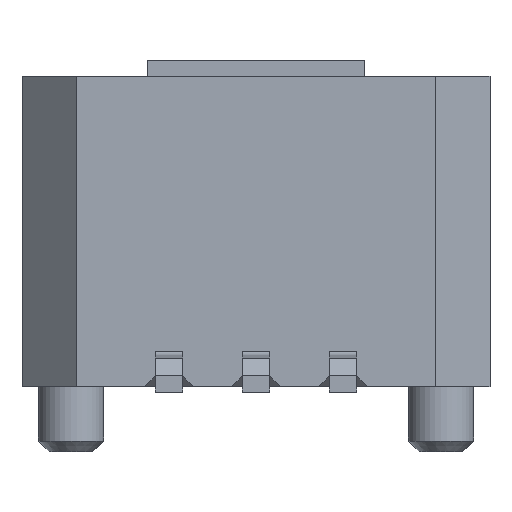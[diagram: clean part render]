
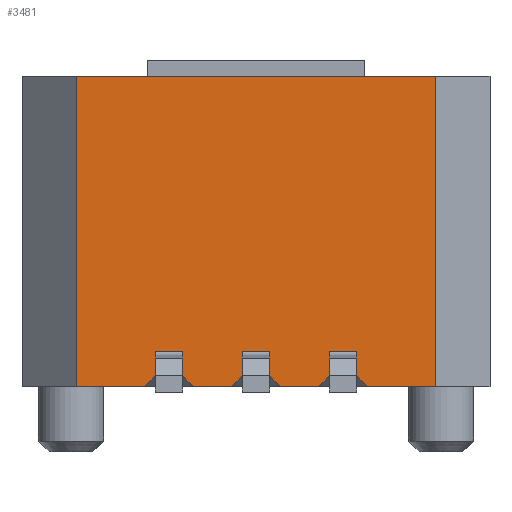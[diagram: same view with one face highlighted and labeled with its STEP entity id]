
A CAD part, front view. The second image highlights one B-rep face of the part: STEP entity #3481.
In plain terms, the highlighted planar face has unit normal (0, -1, 0).
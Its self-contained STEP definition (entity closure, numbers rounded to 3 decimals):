
#326=CARTESIAN_POINT('Vertex',(-1.65,-2.,0.)) ;
#329=CARTESIAN_POINT('Line Origine',(-1.65,-2.,1.425)) ;
#333=CARTESIAN_POINT('Vertex',(-1.65,-2.,2.85)) ;
#397=CARTESIAN_POINT('Vertex',(1.65,-2.,2.85)) ;
#400=CARTESIAN_POINT('Line Origine',(1.65,-2.,1.425)) ;
#404=CARTESIAN_POINT('Vertex',(1.65,-2.,0.)) ;
#429=CARTESIAN_POINT('Line Origine',(0.,-2.,2.85)) ;
#1069=CARTESIAN_POINT('Vertex',(0.925,-2.,0.32)) ;
#1072=CARTESIAN_POINT('Line Origine',(0.8,-2.,0.32)) ;
#1076=CARTESIAN_POINT('Vertex',(0.675,-2.,0.32)) ;
#1312=CARTESIAN_POINT('Line Origine',(0.675,-2.,0.21)) ;
#1316=CARTESIAN_POINT('Vertex',(0.675,-2.,0.1)) ;
#1351=CARTESIAN_POINT('Vertex',(0.925,-2.,0.1)) ;
#1354=CARTESIAN_POINT('Line Origine',(0.925,-2.,0.21)) ;
#1410=CARTESIAN_POINT('Vertex',(1.025,-2.,0.)) ;
#1413=CARTESIAN_POINT('Line Origine',(0.975,-2.,0.05)) ;
#1430=CARTESIAN_POINT('Line Origine',(0.625,-2.,0.05)) ;
#1434=CARTESIAN_POINT('Vertex',(0.575,-2.,0.)) ;
#2014=CARTESIAN_POINT('Vertex',(0.125,-2.,0.32)) ;
#2017=CARTESIAN_POINT('Line Origine',(0.,-2.,0.32)) ;
#2021=CARTESIAN_POINT('Vertex',(-0.125,-2.,0.32)) ;
#2232=CARTESIAN_POINT('Line Origine',(-0.125,-2.,0.21)) ;
#2236=CARTESIAN_POINT('Vertex',(-0.125,-2.,0.1)) ;
#2271=CARTESIAN_POINT('Vertex',(0.125,-2.,0.1)) ;
#2274=CARTESIAN_POINT('Line Origine',(0.125,-2.,0.21)) ;
#2330=CARTESIAN_POINT('Vertex',(0.225,-2.,0.)) ;
#2333=CARTESIAN_POINT('Line Origine',(0.175,-2.,0.05)) ;
#2350=CARTESIAN_POINT('Line Origine',(-0.175,-2.,0.05)) ;
#2354=CARTESIAN_POINT('Vertex',(-0.225,-2.,0.)) ;
#3179=CARTESIAN_POINT('Vertex',(-0.675,-2.,0.32)) ;
#3182=CARTESIAN_POINT('Line Origine',(-0.8,-2.,0.32)) ;
#3186=CARTESIAN_POINT('Vertex',(-0.925,-2.,0.32)) ;
#3353=CARTESIAN_POINT('Line Origine',(-0.925,-2.,0.21)) ;
#3357=CARTESIAN_POINT('Vertex',(-0.925,-2.,0.1)) ;
#3392=CARTESIAN_POINT('Vertex',(-0.675,-2.,0.1)) ;
#3395=CARTESIAN_POINT('Line Origine',(-0.675,-2.,0.21)) ;
#3418=CARTESIAN_POINT('Axis2P3D Location',(0.,-2.,2.85)) ;
#3423=CARTESIAN_POINT('Line Origine',(-0.975,-2.,0.05)) ;
#3427=CARTESIAN_POINT('Vertex',(-1.025,-2.,0.)) ;
#3430=CARTESIAN_POINT('Line Origine',(-0.625,-2.,0.05)) ;
#3434=CARTESIAN_POINT('Vertex',(-0.575,-2.,0.)) ;
#3437=CARTESIAN_POINT('Line Origine',(-0.4,-2.,0.)) ;
#3442=CARTESIAN_POINT('Line Origine',(0.4,-2.,0.)) ;
#3447=CARTESIAN_POINT('Line Origine',(1.338,-2.,0.)) ;
#3452=CARTESIAN_POINT('Line Origine',(-1.338,-2.,0.)) ;
#330=DIRECTION('Vector Direction',(0.,0.,-1.)) ;
#401=DIRECTION('Vector Direction',(0.,0.,-1.)) ;
#430=DIRECTION('Vector Direction',(1.,0.,0.)) ;
#1073=DIRECTION('Vector Direction',(-1.,0.,0.)) ;
#1313=DIRECTION('Vector Direction',(0.,0.,-1.)) ;
#1355=DIRECTION('Vector Direction',(0.,0.,-1.)) ;
#1414=DIRECTION('Vector Direction',(0.707,0.,-0.707)) ;
#1431=DIRECTION('Vector Direction',(-0.707,0.,-0.707)) ;
#2018=DIRECTION('Vector Direction',(-1.,0.,0.)) ;
#2233=DIRECTION('Vector Direction',(0.,0.,-1.)) ;
#2275=DIRECTION('Vector Direction',(0.,0.,-1.)) ;
#2334=DIRECTION('Vector Direction',(0.707,0.,-0.707)) ;
#2351=DIRECTION('Vector Direction',(-0.707,0.,-0.707)) ;
#3183=DIRECTION('Vector Direction',(-1.,0.,0.)) ;
#3354=DIRECTION('Vector Direction',(0.,0.,-1.)) ;
#3396=DIRECTION('Vector Direction',(0.,0.,-1.)) ;
#3419=DIRECTION('Axis2P3D Direction',(0.,-1.,0.)) ;
#3420=DIRECTION('Axis2P3D XDirection',(0.,0.,-1.)) ;
#3424=DIRECTION('Vector Direction',(-0.707,0.,-0.707)) ;
#3431=DIRECTION('Vector Direction',(0.707,0.,-0.707)) ;
#3438=DIRECTION('Vector Direction',(1.,0.,0.)) ;
#3443=DIRECTION('Vector Direction',(1.,0.,0.)) ;
#3448=DIRECTION('Vector Direction',(1.,0.,0.)) ;
#3453=DIRECTION('Vector Direction',(1.,0.,0.)) ;
#3421=AXIS2_PLACEMENT_3D('Plane Axis2P3D',#3418,#3419,#3420) ;
#3458=ORIENTED_EDGE('',*,*,#3429,.F.) ;
#3459=ORIENTED_EDGE('',*,*,#3359,.F.) ;
#3460=ORIENTED_EDGE('',*,*,#3188,.F.) ;
#3461=ORIENTED_EDGE('',*,*,#3399,.T.) ;
#3462=ORIENTED_EDGE('',*,*,#3436,.F.) ;
#3463=ORIENTED_EDGE('',*,*,#3441,.T.) ;
#3464=ORIENTED_EDGE('',*,*,#2356,.F.) ;
#3465=ORIENTED_EDGE('',*,*,#2238,.F.) ;
#3466=ORIENTED_EDGE('',*,*,#2023,.F.) ;
#3467=ORIENTED_EDGE('',*,*,#2278,.T.) ;
#3468=ORIENTED_EDGE('',*,*,#2337,.F.) ;
#3469=ORIENTED_EDGE('',*,*,#3446,.T.) ;
#3470=ORIENTED_EDGE('',*,*,#1436,.F.) ;
#3471=ORIENTED_EDGE('',*,*,#1318,.F.) ;
#3472=ORIENTED_EDGE('',*,*,#1078,.F.) ;
#3473=ORIENTED_EDGE('',*,*,#1358,.T.) ;
#3474=ORIENTED_EDGE('',*,*,#1417,.F.) ;
#3475=ORIENTED_EDGE('',*,*,#3451,.T.) ;
#3476=ORIENTED_EDGE('',*,*,#406,.F.) ;
#3477=ORIENTED_EDGE('',*,*,#433,.F.) ;
#3478=ORIENTED_EDGE('',*,*,#335,.T.) ;
#3479=ORIENTED_EDGE('',*,*,#3456,.T.) ;
#331=VECTOR('Line Direction',#330,1.) ;
#402=VECTOR('Line Direction',#401,1.) ;
#431=VECTOR('Line Direction',#430,1.) ;
#1074=VECTOR('Line Direction',#1073,1.) ;
#1314=VECTOR('Line Direction',#1313,1.) ;
#1356=VECTOR('Line Direction',#1355,1.) ;
#1415=VECTOR('Line Direction',#1414,1.) ;
#1432=VECTOR('Line Direction',#1431,1.) ;
#2019=VECTOR('Line Direction',#2018,1.) ;
#2234=VECTOR('Line Direction',#2233,1.) ;
#2276=VECTOR('Line Direction',#2275,1.) ;
#2335=VECTOR('Line Direction',#2334,1.) ;
#2352=VECTOR('Line Direction',#2351,1.) ;
#3184=VECTOR('Line Direction',#3183,1.) ;
#3355=VECTOR('Line Direction',#3354,1.) ;
#3397=VECTOR('Line Direction',#3396,1.) ;
#3425=VECTOR('Line Direction',#3424,1.) ;
#3432=VECTOR('Line Direction',#3431,1.) ;
#3439=VECTOR('Line Direction',#3438,1.) ;
#3444=VECTOR('Line Direction',#3443,1.) ;
#3449=VECTOR('Line Direction',#3448,1.) ;
#3454=VECTOR('Line Direction',#3453,1.) ;
#3481=ADVANCED_FACE('\X2\96F64EF651E04F554F53\X0\',(#3480),#3422,.T.) ;
#335=EDGE_CURVE('',#334,#327,#332,.T.) ;
#406=EDGE_CURVE('',#398,#405,#403,.T.) ;
#433=EDGE_CURVE('',#334,#398,#432,.T.) ;
#1078=EDGE_CURVE('',#1070,#1077,#1075,.T.) ;
#1318=EDGE_CURVE('',#1077,#1317,#1315,.T.) ;
#1358=EDGE_CURVE('',#1070,#1352,#1357,.T.) ;
#1417=EDGE_CURVE('',#1411,#1352,#1416,.F.) ;
#1436=EDGE_CURVE('',#1317,#1435,#1433,.T.) ;
#2023=EDGE_CURVE('',#2015,#2022,#2020,.T.) ;
#2238=EDGE_CURVE('',#2022,#2237,#2235,.T.) ;
#2278=EDGE_CURVE('',#2015,#2272,#2277,.T.) ;
#2337=EDGE_CURVE('',#2331,#2272,#2336,.F.) ;
#2356=EDGE_CURVE('',#2237,#2355,#2353,.T.) ;
#3188=EDGE_CURVE('',#3180,#3187,#3185,.T.) ;
#3359=EDGE_CURVE('',#3187,#3358,#3356,.T.) ;
#3399=EDGE_CURVE('',#3180,#3393,#3398,.T.) ;
#3429=EDGE_CURVE('',#3358,#3428,#3426,.T.) ;
#3436=EDGE_CURVE('',#3435,#3393,#3433,.F.) ;
#3441=EDGE_CURVE('',#3435,#2355,#3440,.T.) ;
#3446=EDGE_CURVE('',#2331,#1435,#3445,.T.) ;
#3451=EDGE_CURVE('',#1411,#405,#3450,.T.) ;
#3456=EDGE_CURVE('',#327,#3428,#3455,.T.) ;
#3457=EDGE_LOOP('',(#3458,#3459,#3460,#3461,#3462,#3463,#3464,#3465,#3466,#3467,#3468,#3469,#3470,#3471,#3472,#3473,#3474,#3475,#3476,#3477,#3478,#3479)) ;
#3480=FACE_OUTER_BOUND('',#3457,.T.) ;
#332=LINE('Line',#329,#331) ;
#403=LINE('Line',#400,#402) ;
#432=LINE('Line',#429,#431) ;
#1075=LINE('Line',#1072,#1074) ;
#1315=LINE('Line',#1312,#1314) ;
#1357=LINE('Line',#1354,#1356) ;
#1416=LINE('Line',#1413,#1415) ;
#1433=LINE('Line',#1430,#1432) ;
#2020=LINE('Line',#2017,#2019) ;
#2235=LINE('Line',#2232,#2234) ;
#2277=LINE('Line',#2274,#2276) ;
#2336=LINE('Line',#2333,#2335) ;
#2353=LINE('Line',#2350,#2352) ;
#3185=LINE('Line',#3182,#3184) ;
#3356=LINE('Line',#3353,#3355) ;
#3398=LINE('Line',#3395,#3397) ;
#3426=LINE('Line',#3423,#3425) ;
#3433=LINE('Line',#3430,#3432) ;
#3440=LINE('Line',#3437,#3439) ;
#3445=LINE('Line',#3442,#3444) ;
#3450=LINE('Line',#3447,#3449) ;
#3455=LINE('Line',#3452,#3454) ;
#3422=PLANE('Plane',#3421) ;
#327=VERTEX_POINT('',#326) ;
#334=VERTEX_POINT('',#333) ;
#398=VERTEX_POINT('',#397) ;
#405=VERTEX_POINT('',#404) ;
#1070=VERTEX_POINT('',#1069) ;
#1077=VERTEX_POINT('',#1076) ;
#1317=VERTEX_POINT('',#1316) ;
#1352=VERTEX_POINT('',#1351) ;
#1411=VERTEX_POINT('',#1410) ;
#1435=VERTEX_POINT('',#1434) ;
#2015=VERTEX_POINT('',#2014) ;
#2022=VERTEX_POINT('',#2021) ;
#2237=VERTEX_POINT('',#2236) ;
#2272=VERTEX_POINT('',#2271) ;
#2331=VERTEX_POINT('',#2330) ;
#2355=VERTEX_POINT('',#2354) ;
#3180=VERTEX_POINT('',#3179) ;
#3187=VERTEX_POINT('',#3186) ;
#3358=VERTEX_POINT('',#3357) ;
#3393=VERTEX_POINT('',#3392) ;
#3428=VERTEX_POINT('',#3427) ;
#3435=VERTEX_POINT('',#3434) ;
